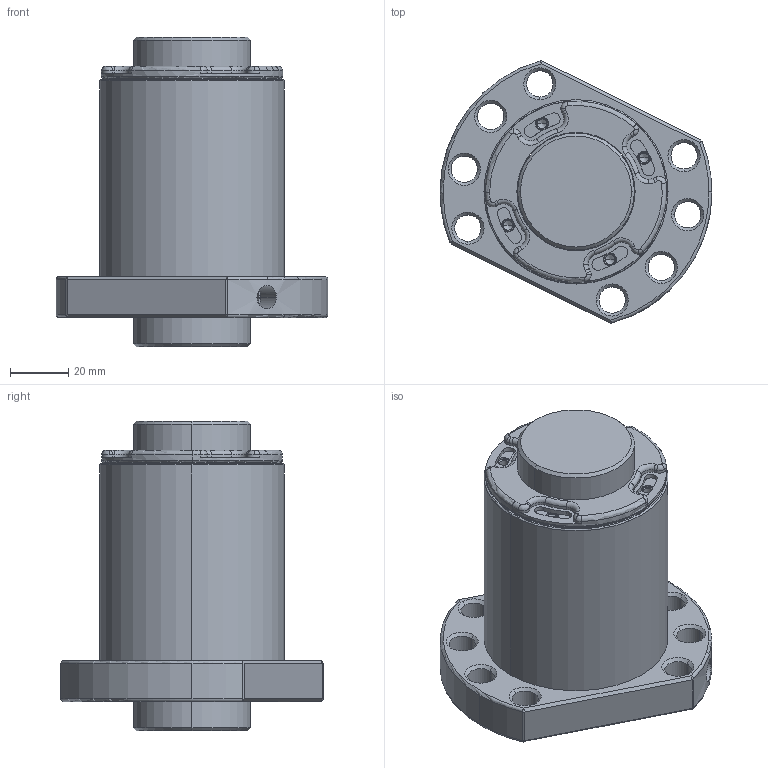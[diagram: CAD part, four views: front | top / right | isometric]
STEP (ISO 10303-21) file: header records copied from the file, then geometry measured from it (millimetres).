
FILE_DESCRIPTION (( 'STEP AP203' ), '1' );
FILE_NAME ('SFSR04020B1D-C.STEP', '2020-06-17T01:51:27', ( '' ), ( '' ), 'SwSTEP 2.0', 'SolidWorks 2013', '' );
FILE_SCHEMA (( 'CONFIG_CONTROL_DESIGN' ));
Length unit declared in the file: millimetre
Products named in the file (1): SFSR04020B1D-C
Bounding box: 93 x 89.77 x 106 mm (x, y, z)
Volume: 308895.6 mm3; surface area: 59843.6 mm2
Topology: 2 solids, 2 shells, 429 faces, 1069 edges, 640 vertices
Faces by surface type: cylinder 183, plane 88, torus 82, cone 68, bspline 8
Entity records: 15643 total; most frequent: CARTESIAN_POINT 5125, DIRECTION 2429, ORIENTED_EDGE 2090, EDGE_CURVE 1045, AXIS2_PLACEMENT_3D 1043, VERTEX_POINT 640, CIRCLE 621, EDGE_LOOP 471
